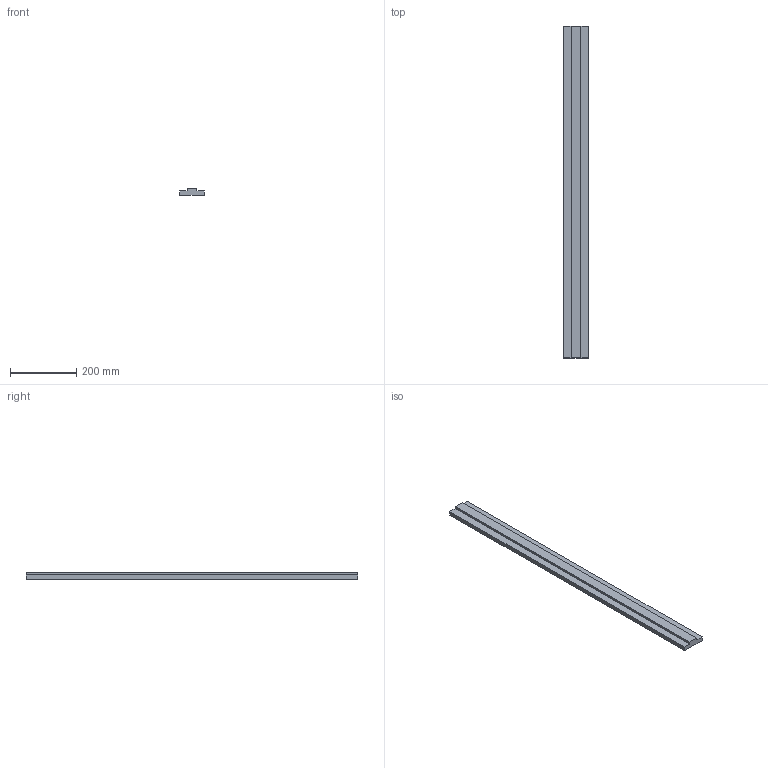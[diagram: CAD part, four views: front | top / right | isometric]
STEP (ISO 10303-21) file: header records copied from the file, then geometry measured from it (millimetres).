
FILE_DESCRIPTION(('CATIA V5 STEP','CAx-IF Rec.Pracs.--- Model Styling and Organization---1.4--- 2014-01-23'),'2;1');
FILE_NAME('C:\Users\Administrator\Desktop\207OTO\207OTO434.stp','2022-02-23T20:21:56+00:00',('none'),('none'),'CATIA Version 5-6 Release 2017','CATIA V5 STEP AP214','none');
FILE_SCHEMA(('AUTOMOTIVE_DESIGN { 1 0 10303 214 1 1 1 1 }'));
Length unit declared in the file: millimetre
Products named in the file (1): 207OTO434
Bounding box: 75 x 1000 x 20 mm (x, y, z)
Volume: 1189500 mm3; surface area: 192379 mm2
Topology: 1 solids, 1 shells, 10 faces, 24 edges, 16 vertices
Faces by surface type: plane 10
Entity records: 304 total; most frequent: CARTESIAN_POINT 50, ORIENTED_EDGE 48, DIRECTION 42, VECTOR 24, EDGE_CURVE 24, LINE 24, VERTEX_POINT 16, AXIS2_PLACEMENT_3D 10
